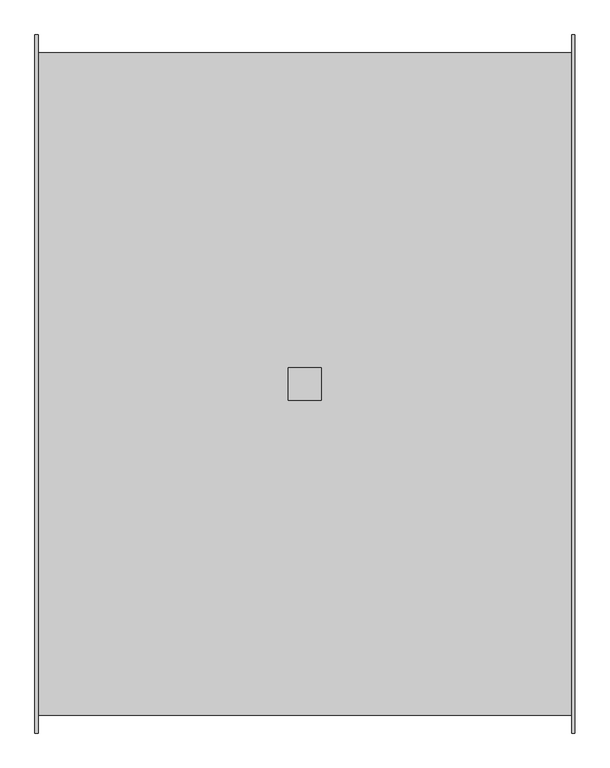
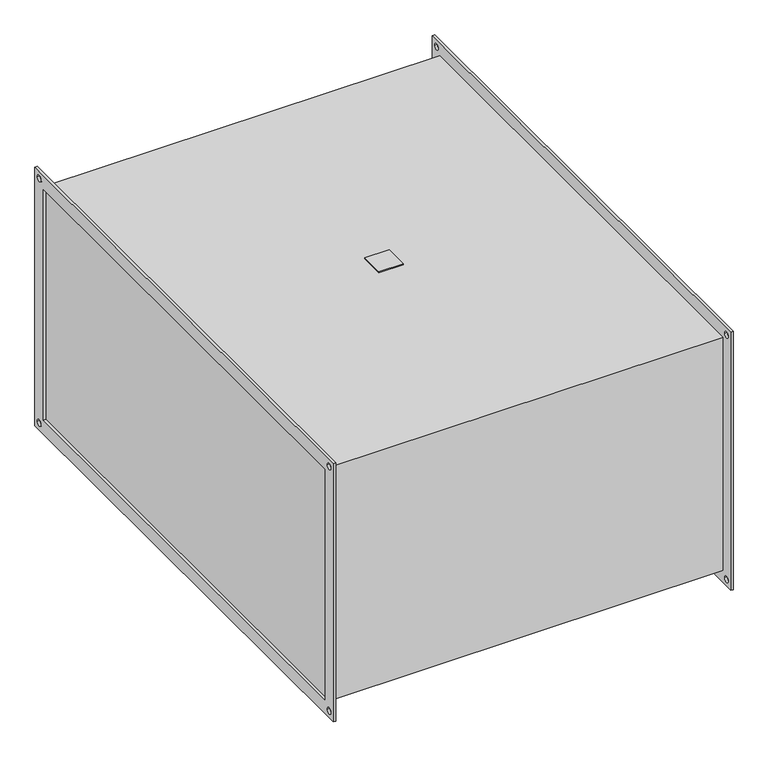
"""IFC4 building model written with IfcOpenShell, lengths in millimetres: damper geometry, KORF_Фильтр_Карманный_FKR : FKR 100-50  EU3."""

from ifc_helpers import new_model, si_unit, point, frame, frame_2d, origin, place, context, project, spatial, polyline, circle_curve, trimmed, segment, composite_curve, outline, extrude, source, transform, mapped, element, save


def damper_deddc22d(model_context):
    return source(origin(), model_context, "Body", "SweptSolid", [
        extrude(outline(polyline([(385.0, -25.0), (385.0, 25.0), (435.0, 25.0), (435.0, -25.0), (385.0, -25.0)])), frame((0.0, 0.0, 253.0), z_axis=(0.0, 0.0, 1.0), x_axis=(1.0, 0.0, 0.0)), (0.0, 0.0, 1.0), 2.0),
        extrude(outline(polyline([(-530.0, 280.0), (530.0, 280.0), (530.0, -280.0), (-530.0, -280.0), (-530.0, 280.0)]), holes=[polyline([(-500.0, 250.0), (-500.0, -250.0), (500.0, -250.0), (500.0, 250.0), (-500.0, 250.0)]), composite_curve([segment(trimmed(circle_curve(frame_2d((515.0, 265.0)), 6.5), [point((508.5, 265.0))], [point((521.5, 265.0))], True, "CARTESIAN"), True, "CONTINUOUS"), segment(trimmed(circle_curve(frame_2d((515.0, 265.0)), 6.5), [point((521.5, 265.0))], [point((508.5, 265.0))], True, "CARTESIAN"), True, "CONTINUOUS")], self_intersect=False), composite_curve([segment(trimmed(circle_curve(frame_2d((-515.0, 265.0)), 6.5), [point((-521.5, 265.0))], [point((-508.5, 265.0))], True, "CARTESIAN"), True, "CONTINUOUS"), segment(trimmed(circle_curve(frame_2d((-515.0, 265.0)), 6.5), [point((-508.5, 265.0))], [point((-521.5, 265.0))], True, "CARTESIAN"), True, "CONTINUOUS")], self_intersect=False), composite_curve([segment(trimmed(circle_curve(frame_2d((-515.0, -265.0)), 6.5), [point((-521.5, -265.0))], [point((-508.5, -265.0))], True, "CARTESIAN"), True, "CONTINUOUS"), segment(trimmed(circle_curve(frame_2d((-515.0, -265.0)), 6.5), [point((-508.5, -265.0))], [point((-521.5, -265.0))], True, "CARTESIAN"), True, "CONTINUOUS")], self_intersect=False), composite_curve([segment(trimmed(circle_curve(frame_2d((515.0, -265.0)), 6.5), [point((508.5, -265.0))], [point((521.5, -265.0))], True, "CARTESIAN"), True, "CONTINUOUS"), segment(trimmed(circle_curve(frame_2d((515.0, -265.0)), 6.5), [point((521.5, -265.0))], [point((508.5, -265.0))], True, "CARTESIAN"), True, "CONTINUOUS")], self_intersect=False)]), frame((815.0, 0.0, 0.0), z_axis=(1.0, 0.0, 0.0), x_axis=(0.0, 1.0, 0.0)), (0.0, 0.0, 1.0), 5.0),
        extrude(outline(polyline([(-530.0, 280.0), (530.0, 280.0), (530.0, -280.0), (-530.0, -280.0), (-530.0, 280.0)]), holes=[polyline([(-500.0, 250.0), (-500.0, -250.0), (500.0, -250.0), (500.0, 250.0), (-500.0, 250.0)]), composite_curve([segment(trimmed(circle_curve(frame_2d((515.0, 265.0)), 6.5), [point((508.5, 265.0))], [point((521.5, 265.0))], True, "CARTESIAN"), True, "CONTINUOUS"), segment(trimmed(circle_curve(frame_2d((515.0, 265.0)), 6.5), [point((521.5, 265.0))], [point((508.5, 265.0))], True, "CARTESIAN"), True, "CONTINUOUS")], self_intersect=False), composite_curve([segment(trimmed(circle_curve(frame_2d((-515.0, 265.0)), 6.5), [point((-521.5, 265.0))], [point((-508.5, 265.0))], True, "CARTESIAN"), True, "CONTINUOUS"), segment(trimmed(circle_curve(frame_2d((-515.0, 265.0)), 6.5), [point((-508.5, 265.0))], [point((-521.5, 265.0))], True, "CARTESIAN"), True, "CONTINUOUS")], self_intersect=False), composite_curve([segment(trimmed(circle_curve(frame_2d((-515.0, -265.0)), 6.5), [point((-521.5, -265.0))], [point((-508.5, -265.0))], True, "CARTESIAN"), True, "CONTINUOUS"), segment(trimmed(circle_curve(frame_2d((-515.0, -265.0)), 6.5), [point((-508.5, -265.0))], [point((-521.5, -265.0))], True, "CARTESIAN"), True, "CONTINUOUS")], self_intersect=False), composite_curve([segment(trimmed(circle_curve(frame_2d((515.0, -265.0)), 6.5), [point((508.5, -265.0))], [point((521.5, -265.0))], True, "CARTESIAN"), True, "CONTINUOUS"), segment(trimmed(circle_curve(frame_2d((515.0, -265.0)), 6.5), [point((521.5, -265.0))], [point((508.5, -265.0))], True, "CARTESIAN"), True, "CONTINUOUS")], self_intersect=False)]), frame((0.0, 0.0, 0.0), z_axis=(1.0, 0.0, 0.0), x_axis=(0.0, 1.0, 0.0)), (0.0, 0.0, 1.0), 5.0),
        extrude(outline(polyline([(815.0, 503.0), (815.0, -503.0), (5.0, -503.0), (5.0, 503.0), (815.0, 503.0)])), frame((0.0, 0.0, -253.0), z_axis=(0.0, 0.0, 1.0), x_axis=(1.0, 0.0, 0.0)), (0.0, 0.0, 1.0), 506.0),
    ])


if __name__ == "__main__":
    model = new_model("IFC4")
    model_context = context("Model", 3, world=origin())
    ifc_project = project(units=[si_unit("LENGTHUNIT", "METRE", prefix="MILLI")], contexts=[model_context])
    site = spatial("IfcSite", under=ifc_project)
    building = spatial("IfcBuilding", under=site)
    placement = place(None, origin())
    damper_shape = damper_deddc22d(model_context)
    element("IfcDamper", 1, ObjectType="KORF_Фильтр_Карманный_FKR : FKR 100-50  EU3", at=placement, inside=building, context=model_context, shape_type="MappedRepresentation", body=[
        mapped(damper_shape, transform((0.0, 0.0, 0.0), x_axis=(1.0, 0.0, 0.0), y_axis=(0.0, 1.0, 0.0), z_axis=(0.0, 0.0, 1.0))),
    ])
    save(model, "model.ifc")
